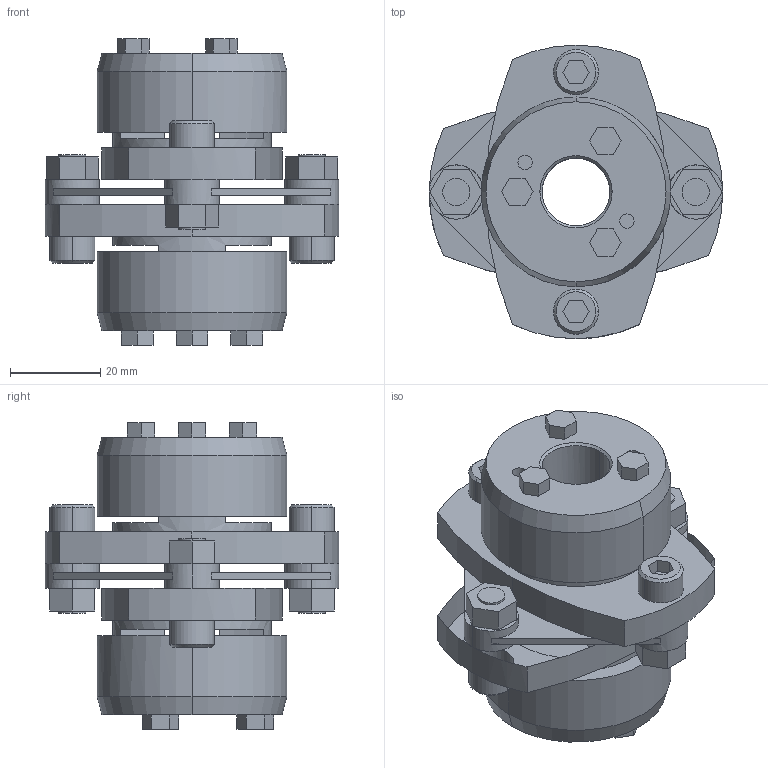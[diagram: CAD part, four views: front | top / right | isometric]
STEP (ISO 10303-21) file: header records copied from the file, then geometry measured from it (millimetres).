
FILE_DESCRIPTION((''),'2;1');
FILE_NAME('LCS-65T7-14×15.stp','2015-10-28T08:44:39',(''),(''),'AutoCAD STEP 2000i','AutoCAD 2000i',', , ');
FILE_SCHEMA(('CONFIG_CONTROL_DESIGN'));
Length unit declared in the file: millimetre
Products named in the file (7): LCS-65T7-14×15; 忣兜1; LC65T7-T015; LC65T7-T014-1; LC65T7-T014; LC65T7-T015-1; LCS65-ITA
Assembly tree (7 placements, depth 2):
  LCS-65T7-14×15
    忣兜1
    LC65T7-T015  x2
    LC65T7-T014-1
    LC65T7-T014
    LC65T7-T015-1
    LCS65-ITA
Bounding box: 65 x 65 x 67.9 mm (x, y, z)
Volume: 83035.6 mm3; surface area: 28236.4 mm2
Topology: 1 solids, 1 shells, 220 faces, 578 edges, 394 vertices
Faces by surface type: plane 132, cylinder 68, cone 20
Entity records: 7003 total; most frequent: DIRECTION 1232, CARTESIAN_POINT 1186, ORIENTED_EDGE 1128, EDGE_CURVE 564, AXIS2_PLACEMENT_3D 426, VECTOR 380, LINE 380, VERTEX_POINT 368
